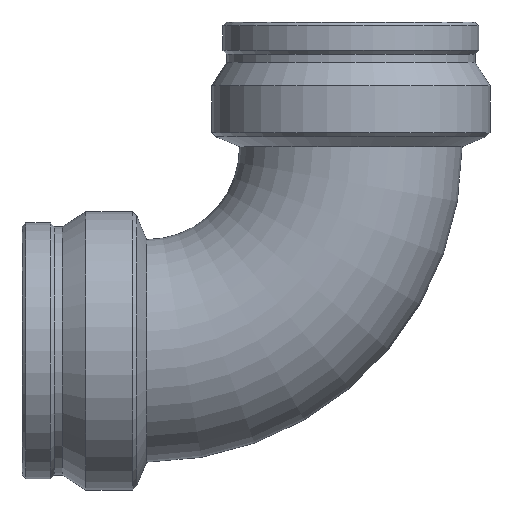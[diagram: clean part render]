
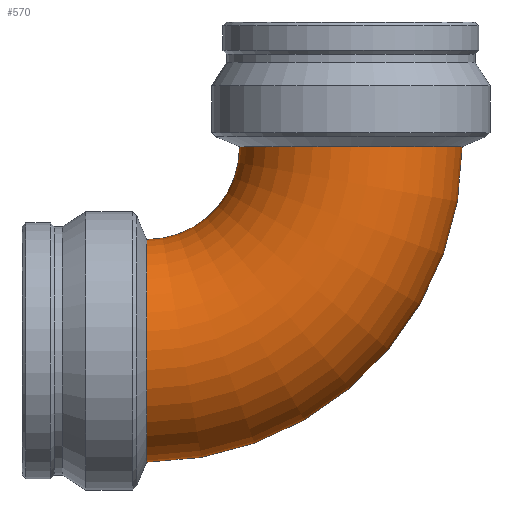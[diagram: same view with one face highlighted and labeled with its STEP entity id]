
A CAD part, front view. The second image highlights one B-rep face of the part: STEP entity #570.
In plain terms, the highlighted toroidal (fillet/blend) face has major radius 240.15 mm and minor radius 130.8 mm.
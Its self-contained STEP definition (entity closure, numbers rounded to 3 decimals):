
#130=FACE_OUTER_BOUND('',#172,.T.);
#172=EDGE_LOOP('',(#409,#410,#411,#412,#413,#414));
#228=CIRCLE('',#641,130.8);
#229=CIRCLE('',#642,130.8);
#230=CIRCLE('',#643,109.35);
#231=CIRCLE('',#644,130.8);
#232=CIRCLE('',#645,130.8);
#275=VERTEX_POINT('',#948);
#276=VERTEX_POINT('',#949);
#277=VERTEX_POINT('',#952);
#278=VERTEX_POINT('',#954);
#326=EDGE_CURVE('',#275,#276,#228,.T.);
#327=EDGE_CURVE('',#276,#275,#229,.T.);
#328=EDGE_CURVE('',#276,#277,#230,.T.);
#329=EDGE_CURVE('',#278,#277,#231,.T.);
#330=EDGE_CURVE('',#277,#278,#232,.T.);
#409=ORIENTED_EDGE('',*,*,#326,.F.);
#410=ORIENTED_EDGE('',*,*,#327,.F.);
#411=ORIENTED_EDGE('',*,*,#328,.T.);
#412=ORIENTED_EDGE('',*,*,#329,.F.);
#413=ORIENTED_EDGE('',*,*,#330,.F.);
#414=ORIENTED_EDGE('',*,*,#328,.F.);
#568=TOROIDAL_SURFACE('',#640,240.15,130.8);
#570=ADVANCED_FACE('',(#130),#568,.T.);
#640=AXIS2_PLACEMENT_3D('',#947,#738,#739);
#641=AXIS2_PLACEMENT_3D('',#950,#740,#741);
#642=AXIS2_PLACEMENT_3D('',#951,#742,#743);
#643=AXIS2_PLACEMENT_3D('',#953,#744,#745);
#644=AXIS2_PLACEMENT_3D('',#955,#746,#747);
#645=AXIS2_PLACEMENT_3D('',#956,#748,#749);
#738=DIRECTION('center_axis',(0.,-1.,0.));
#739=DIRECTION('ref_axis',(0.,0.,-1.));
#740=DIRECTION('center_axis',(0.,0.,
1.));
#741=DIRECTION('ref_axis',(0.,-1.,0.));
#742=DIRECTION('center_axis',(0.,0.,
1.));
#743=DIRECTION('ref_axis',(0.,-1.,0.));
#744=DIRECTION('center_axis',(0.,1.,0.));
#745=DIRECTION('ref_axis',(0.,0.,
-1.));
#746=DIRECTION('center_axis',(-1.,0.,0.));
#747=DIRECTION('ref_axis',(0.,-1.,0.));
#748=DIRECTION('center_axis',(-1.,0.,0.));
#749=DIRECTION('ref_axis',(0.,-1.,0.));
#947=CARTESIAN_POINT('Origin',(-240.15,0.,240.15));
#948=CARTESIAN_POINT('',(0.,130.8,240.15));
#949=CARTESIAN_POINT('',(-130.8,0.,240.15));
#950=CARTESIAN_POINT('Origin',(0.,0.,
240.15));
#951=CARTESIAN_POINT('Origin',(0.,0.,
240.15));
#952=CARTESIAN_POINT('',(-240.15,0.,130.8));
#953=CARTESIAN_POINT('Origin',(-240.15,0.,240.15));
#954=CARTESIAN_POINT('',(-240.15,130.8,0.));
#955=CARTESIAN_POINT('Origin',(-240.15,0.,0.));
#956=CARTESIAN_POINT('Origin',(-240.15,0.,0.));
